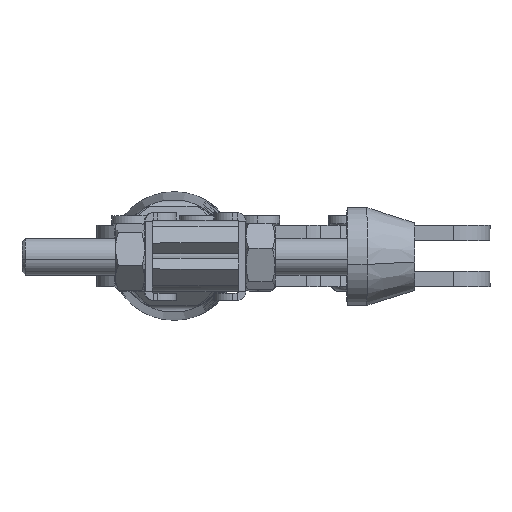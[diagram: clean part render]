
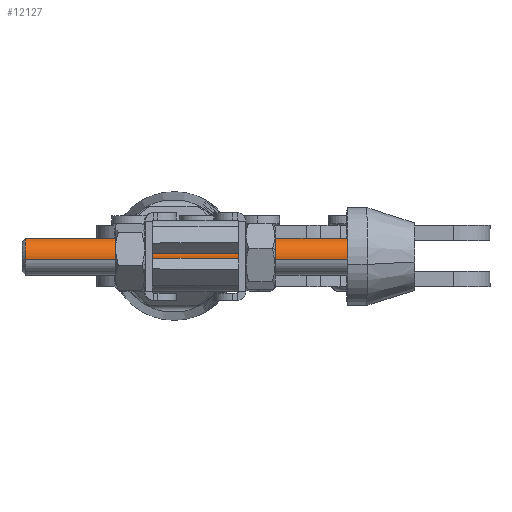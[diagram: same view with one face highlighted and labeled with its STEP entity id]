
A CAD part, left-side view. The second image highlights one B-rep face of the part: STEP entity #12127.
In plain terms, the highlighted cylindrical face has radius 3 mm (diameter 6 mm), a partial arc.
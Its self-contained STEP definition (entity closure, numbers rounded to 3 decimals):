
#373 = CARTESIAN_POINT ( 'NONE',  ( -64., 0., 3. ) ) ;
#512 = AXIS2_PLACEMENT_3D ( 'NONE', #6910, #13042, #17252 ) ;
#1575 = ORIENTED_EDGE ( 'NONE', *, *, #15138, .F. ) ;
#1812 = LINE ( 'NONE', #373, #2929 ) ;
#1969 = EDGE_CURVE ( 'NONE', #13709, #6541, #17244, .T. ) ;
#2060 = ORIENTED_EDGE ( 'NONE', *, *, #9255, .F. ) ;
#2314 = CARTESIAN_POINT ( 'NONE',  ( -11., 0., -3. ) ) ;
#2463 = FACE_OUTER_BOUND ( 'NONE', #6053, .T. ) ;
#2548 = LINE ( 'NONE', #15760, #5805 ) ;
#2929 = VECTOR ( 'NONE', #6013, 1000. ) ;
#3437 = EDGE_CURVE ( 'NONE', #6541, #5405, #2548, .T. ) ;
#4763 = CARTESIAN_POINT ( 'NONE',  ( -63.5, 0., -3. ) ) ;
#5405 = VERTEX_POINT ( 'NONE', #4763 ) ;
#5426 = CARTESIAN_POINT ( 'NONE',  ( -64., 0., 0. ) ) ;
#5805 = VECTOR ( 'NONE', #17482, 1000. ) ;
#6013 = DIRECTION ( 'NONE',  ( -1., 0., 0. ) ) ;
#6053 = EDGE_LOOP ( 'NONE', ( #10416, #12522, #2060, #1575 ) ) ;
#6541 = VERTEX_POINT ( 'NONE', #2314 ) ;
#6910 = CARTESIAN_POINT ( 'NONE',  ( -63.5, 0., 0. ) ) ;
#8062 = AXIS2_PLACEMENT_3D ( 'NONE', #14733, #11784, #8797 ) ;
#8797 = DIRECTION ( 'NONE',  ( 0., 0., 1. ) ) ;
#9255 = EDGE_CURVE ( 'NONE', #9507, #5405, #17041, .T. ) ;
#9507 = VERTEX_POINT ( 'NONE', #11983 ) ;
#10395 = DIRECTION ( 'NONE',  ( 0., 0., 1. ) ) ;
#10416 = ORIENTED_EDGE ( 'NONE', *, *, #1969, .T. ) ;
#10720 = AXIS2_PLACEMENT_3D ( 'NONE', #5426, #11275, #10395 ) ;
#11275 = DIRECTION ( 'NONE',  ( -1., 0., 0. ) ) ;
#11784 = DIRECTION ( 'NONE',  ( -1., 0., 0. ) ) ;
#11983 = CARTESIAN_POINT ( 'NONE',  ( -63.5, 0., 3. ) ) ;
#12127 = ADVANCED_FACE ( 'NONE', ( #2463 ), #18552, .T. ) ;
#12511 = CARTESIAN_POINT ( 'NONE',  ( -11., 0., 3. ) ) ;
#12522 = ORIENTED_EDGE ( 'NONE', *, *, #3437, .T. ) ;
#13042 = DIRECTION ( 'NONE',  ( -1., 0., 0. ) ) ;
#13709 = VERTEX_POINT ( 'NONE', #12511 ) ;
#14733 = CARTESIAN_POINT ( 'NONE',  ( -11., 0., 0. ) ) ;
#15138 = EDGE_CURVE ( 'NONE', #13709, #9507, #1812, .T. ) ;
#15760 = CARTESIAN_POINT ( 'NONE',  ( -64., 0., -3. ) ) ;
#17041 = CIRCLE ( 'NONE', #512, 3. ) ;
#17244 = CIRCLE ( 'NONE', #8062, 3. ) ;
#17252 = DIRECTION ( 'NONE',  ( 0., 0., 1. ) ) ;
#17482 = DIRECTION ( 'NONE',  ( -1., 0., 0. ) ) ;
#18552 = CYLINDRICAL_SURFACE ( 'NONE', #10720, 3. ) ;
